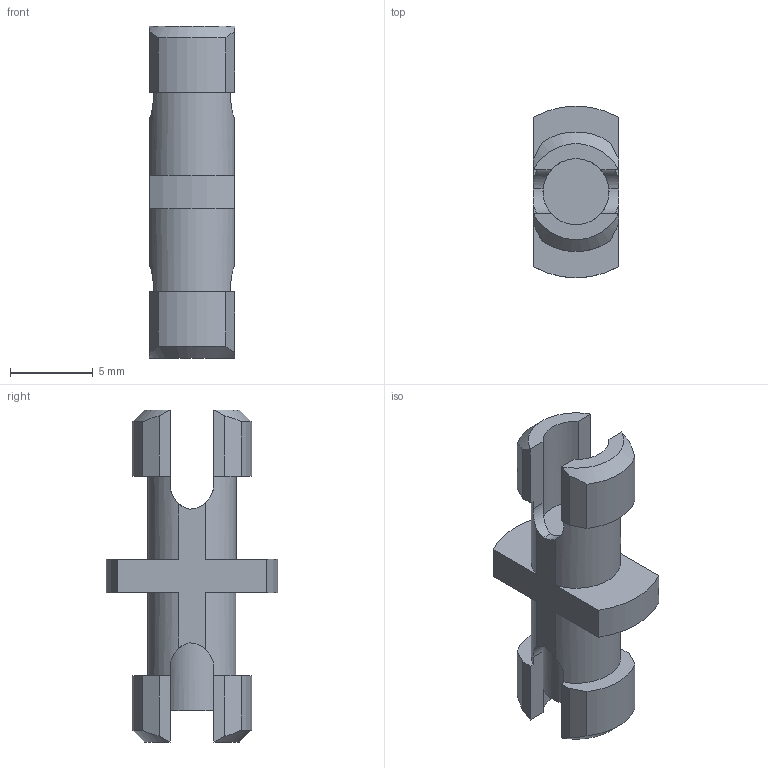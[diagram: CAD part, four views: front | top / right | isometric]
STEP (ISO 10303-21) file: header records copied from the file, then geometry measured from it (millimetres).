
FILE_DESCRIPTION( ( 'Unknown' ), '1' );
FILE_NAME( 'C:/Users/kcleven/Desktop/printer/ratchet/pin.stp', 'Unknown', ( 'Unknown' ), ( 'Unknown' ), 'PSStep 16.0.42', 'Unknown', ' ' );
FILE_SCHEMA( ( 'AUTOMOTIVE_DESIGN { 1 0 10303 214 1 1 1 1 }' ) );
Length unit declared in the file: millimetre
Products named in the file (1): 1
Bounding box: 5.16 x 10.4 x 20.1 mm (x, y, z)
Volume: 450.2 mm3; surface area: 591.8 mm2
Topology: 1 solids, 1 shells, 68 faces, 182 edges, 116 vertices
Faces by surface type: plane 40, cylinder 24, cone 4
Entity records: 2792 total; most frequent: CARTESIAN_POINT 563, ORIENTED_EDGE 364, DIRECTION 330, EDGE_CURVE 182, VERTEX_POINT 116, AXIS2_PLACEMENT_3D 111, LINE 108, VECTOR 108
